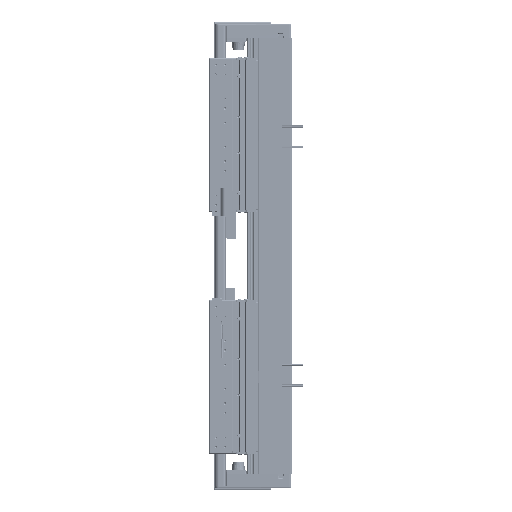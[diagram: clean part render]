
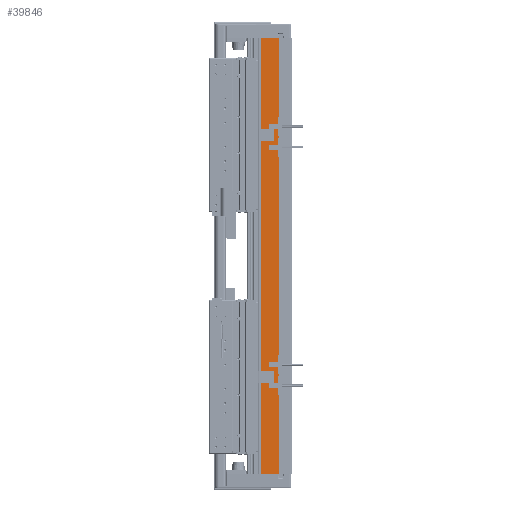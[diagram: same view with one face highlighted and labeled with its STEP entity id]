
A CAD part, left-side view. The second image highlights one B-rep face of the part: STEP entity #39846.
In plain terms, the highlighted planar face has unit normal (-1, 0, 0).
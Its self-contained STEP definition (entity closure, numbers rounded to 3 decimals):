
#1167 = CARTESIAN_POINT ( 'NONE',  ( -97.5, 14.45, 270. ) ) ;
#8706 = VERTEX_POINT ( 'NONE', #82915 ) ;
#13123 = EDGE_CURVE ( 'NONE', #74612, #8706, #90412, .T. ) ;
#13529 = DIRECTION ( 'NONE',  ( 0., 0., -1. ) ) ;
#17779 = EDGE_CURVE ( 'NONE', #99876, #78251, #40791, .T. ) ;
#22250 = EDGE_LOOP ( 'NONE', ( #47235, #79573, #27255, #41534 ) ) ;
#25860 = CARTESIAN_POINT ( 'NONE',  ( -97.5, 36.95, 270. ) ) ;
#27255 = ORIENTED_EDGE ( 'NONE', *, *, #60143, .F. ) ;
#28501 = VECTOR ( 'NONE', #32001, 1000. ) ;
#32001 = DIRECTION ( 'NONE',  ( 0., -1., 0. ) ) ;
#39846 = ADVANCED_FACE ( 'NONE', ( #99380 ), #81023, .F. ) ;
#40791 = LINE ( 'NONE', #85760, #75638 ) ;
#41534 = ORIENTED_EDGE ( 'NONE', *, *, #17779, .T. ) ;
#47235 = ORIENTED_EDGE ( 'NONE', *, *, #49356, .T. ) ;
#49356 = EDGE_CURVE ( 'NONE', #78251, #8706, #80736, .T. ) ;
#59253 = DIRECTION ( 'NONE',  ( 1., 0., 0. ) ) ;
#60143 = EDGE_CURVE ( 'NONE', #99876, #74612, #142958, .T. ) ;
#60382 = AXIS2_PLACEMENT_3D ( 'NONE', #25860, #59253, #70121 ) ;
#69384 = CARTESIAN_POINT ( 'NONE',  ( -97.5, 14.45, 270. ) ) ;
#69824 = CARTESIAN_POINT ( 'NONE',  ( -97.5, 36.95, -270. ) ) ;
#70121 = DIRECTION ( 'NONE',  ( 0., 1., 0. ) ) ;
#73614 = VECTOR ( 'NONE', #13529, 1000. ) ;
#74612 = VERTEX_POINT ( 'NONE', #1167 ) ;
#75560 = DIRECTION ( 'NONE',  ( 0., -1., 0. ) ) ;
#75638 = VECTOR ( 'NONE', #105361, 1000. ) ;
#76928 = CARTESIAN_POINT ( 'NONE',  ( -97.5, 36.95, 270. ) ) ;
#78251 = VERTEX_POINT ( 'NONE', #99238 ) ;
#79573 = ORIENTED_EDGE ( 'NONE', *, *, #13123, .F. ) ;
#80736 = LINE ( 'NONE', #69824, #128272 ) ;
#81023 = PLANE ( 'NONE',  #60382 ) ;
#82915 = CARTESIAN_POINT ( 'NONE',  ( -97.5, 14.45, -270. ) ) ;
#85760 = CARTESIAN_POINT ( 'NONE',  ( -97.5, 36.95, 270. ) ) ;
#90412 = LINE ( 'NONE', #69384, #73614 ) ;
#99238 = CARTESIAN_POINT ( 'NONE',  ( -97.5, 36.95, -270. ) ) ;
#99380 = FACE_OUTER_BOUND ( 'NONE', #22250, .T. ) ;
#99876 = VERTEX_POINT ( 'NONE', #132253 ) ;
#105361 = DIRECTION ( 'NONE',  ( 0., 0., -1. ) ) ;
#128272 = VECTOR ( 'NONE', #75560, 1000. ) ;
#132253 = CARTESIAN_POINT ( 'NONE',  ( -97.5, 36.95, 270. ) ) ;
#142958 = LINE ( 'NONE', #76928, #28501 ) ;
